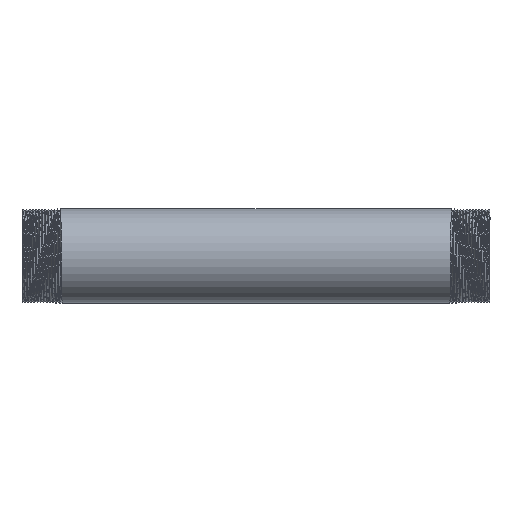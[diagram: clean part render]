
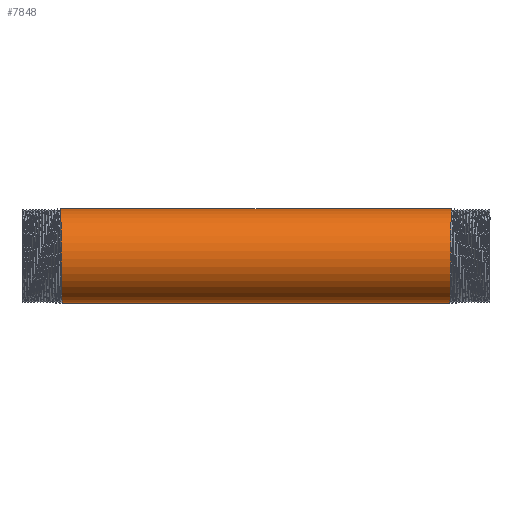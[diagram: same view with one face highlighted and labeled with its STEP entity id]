
A CAD part, front view. The second image highlights one B-rep face of the part: STEP entity #7848.
In plain terms, the highlighted cylindrical face has radius 30.15 mm (diameter 60.3 mm), a partial arc.
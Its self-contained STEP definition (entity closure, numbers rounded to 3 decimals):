
#370 =( BOUNDED_CURVE ( )  B_SPLINE_CURVE ( 2, ( #11616, #7816, #9628, #8723, #1734, #2825, #9563, #2632, #10652, #8525, #12642 ),
 .UNSPECIFIED., .F., .T. ) 
 B_SPLINE_CURVE_WITH_KNOTS ( ( 3, 2, 2, 2, 2, 3 ),
 ( 0., 0.007, 0.013, 0.02, 0.027, 0.033 ),
 .UNSPECIFIED. ) 
 CURVE ( )  GEOMETRIC_REPRESENTATION_ITEM ( )  RATIONAL_B_SPLINE_CURVE ( ( 1., 0.951, 1., 0.951, 1., 0.951, 1., 0.951, 1., 0.951, 1. ) ) 
 REPRESENTATION_ITEM ( '' )  );
#415 = CARTESIAN_POINT ( 'NONE',  ( -149.494, 0., 0. ) ) ;
#798 = CARTESIAN_POINT ( 'NONE',  ( -124.35, -9.796, -30.15 ) ) ;
#1090 = EDGE_CURVE ( 'NONE', #12295, #6161, #4310, .T. ) ;
#1621 = CARTESIAN_POINT ( 'NONE',  ( -124.25, 0., -30.15 ) ) ;
#1734 = CARTESIAN_POINT ( 'NONE',  ( 124.65, -28.674, -9.317 ) ) ;
#1825 = CARTESIAN_POINT ( 'NONE',  ( -124.55, -25.647, -18.634 ) ) ;
#1832 = VECTOR ( 'NONE', #8328, 1000. ) ;
#2253 = ORIENTED_EDGE ( 'NONE', *, *, #10816, .T. ) ;
#2355 = CARTESIAN_POINT ( 'NONE',  ( 125.25, 0., 30.15 ) ) ;
#2632 = CARTESIAN_POINT ( 'NONE',  ( 124.95, -25.647, 18.634 ) ) ;
#2825 = CARTESIAN_POINT ( 'NONE',  ( 124.75, -31.702, 0. ) ) ;
#3176 = DIRECTION ( 'NONE',  ( -1., 0., 0. ) ) ;
#3395 = CARTESIAN_POINT ( 'NONE',  ( -149.494, 0., -30.15 ) ) ;
#3808 = CARTESIAN_POINT ( 'NONE',  ( -124.75, -31.702, 0. ) ) ;
#4234 = LINE ( 'NONE', #3395, #1832 ) ;
#4310 =( BOUNDED_CURVE ( )  B_SPLINE_CURVE ( 2, ( #6699, #798, #4716, #1825, #8688, #3808, #11647, #10680, #8939, #4964, #12085 ),
 .UNSPECIFIED., .F., .T. ) 
 B_SPLINE_CURVE_WITH_KNOTS ( ( 3, 2, 2, 2, 2, 3 ),
 ( 0., 0.007, 0.013, 0.02, 0.027, 0.033 ),
 .UNSPECIFIED. ) 
 CURVE ( )  GEOMETRIC_REPRESENTATION_ITEM ( )  RATIONAL_B_SPLINE_CURVE ( ( 1., 0.951, 1., 0.951, 1., 0.951, 1., 0.951, 1., 0.951, 1. ) ) 
 REPRESENTATION_ITEM ( '' )  );
#4716 = CARTESIAN_POINT ( 'NONE',  ( -124.45, -17.722, -24.392 ) ) ;
#4964 = CARTESIAN_POINT ( 'NONE',  ( -125.15, -9.796, 30.15 ) ) ;
#5094 = ORIENTED_EDGE ( 'NONE', *, *, #9248, .T. ) ;
#5238 = EDGE_LOOP ( 'NONE', ( #10602, #2253, #5094, #8768 ) ) ;
#5354 = VERTEX_POINT ( 'NONE', #8184 ) ;
#5469 = CARTESIAN_POINT ( 'NONE',  ( -125.25, 0., 30.15 ) ) ;
#5813 = LINE ( 'NONE', #9730, #8178 ) ;
#6161 = VERTEX_POINT ( 'NONE', #5469 ) ;
#6699 = CARTESIAN_POINT ( 'NONE',  ( -124.25, 0., -30.15 ) ) ;
#7083 = DIRECTION ( 'NONE',  ( 0., 0., 1. ) ) ;
#7816 = CARTESIAN_POINT ( 'NONE',  ( 124.35, -9.796, -30.15 ) ) ;
#7848 = ADVANCED_FACE ( 'NONE', ( #9919 ), #11968, .T. ) ;
#8178 = VECTOR ( 'NONE', #11720, 1000. ) ;
#8184 = CARTESIAN_POINT ( 'NONE',  ( 124.25, 0., -30.15 ) ) ;
#8328 = DIRECTION ( 'NONE',  ( -1., 0., 0. ) ) ;
#8525 = CARTESIAN_POINT ( 'NONE',  ( 125.15, -9.796, 30.15 ) ) ;
#8688 = CARTESIAN_POINT ( 'NONE',  ( -124.65, -28.674, -9.317 ) ) ;
#8723 = CARTESIAN_POINT ( 'NONE',  ( 124.55, -25.647, -18.634 ) ) ;
#8768 = ORIENTED_EDGE ( 'NONE', *, *, #1090, .F. ) ;
#8939 = CARTESIAN_POINT ( 'NONE',  ( -125.05, -17.722, 24.392 ) ) ;
#9048 = VERTEX_POINT ( 'NONE', #2355 ) ;
#9248 = EDGE_CURVE ( 'NONE', #9048, #6161, #5813, .T. ) ;
#9563 = CARTESIAN_POINT ( 'NONE',  ( 124.85, -28.674, 9.317 ) ) ;
#9628 = CARTESIAN_POINT ( 'NONE',  ( 124.45, -17.722, -24.392 ) ) ;
#9730 = CARTESIAN_POINT ( 'NONE',  ( -149.494, 0., 30.15 ) ) ;
#9879 = EDGE_CURVE ( 'NONE', #5354, #12295, #4234, .T. ) ;
#9919 = FACE_OUTER_BOUND ( 'NONE', #5238, .T. ) ;
#10602 = ORIENTED_EDGE ( 'NONE', *, *, #9879, .F. ) ;
#10652 = CARTESIAN_POINT ( 'NONE',  ( 125.05, -17.722, 24.392 ) ) ;
#10680 = CARTESIAN_POINT ( 'NONE',  ( -124.95, -25.647, 18.634 ) ) ;
#10807 = AXIS2_PLACEMENT_3D ( 'NONE', #415, #3176, #7083 ) ;
#10816 = EDGE_CURVE ( 'NONE', #5354, #9048, #370, .T. ) ;
#11616 = CARTESIAN_POINT ( 'NONE',  ( 124.25, 0., -30.15 ) ) ;
#11647 = CARTESIAN_POINT ( 'NONE',  ( -124.85, -28.674, 9.317 ) ) ;
#11720 = DIRECTION ( 'NONE',  ( -1., 0., 0. ) ) ;
#11968 = CYLINDRICAL_SURFACE ( 'NONE', #10807, 30.15 ) ;
#12085 = CARTESIAN_POINT ( 'NONE',  ( -125.25, 0., 30.15 ) ) ;
#12295 = VERTEX_POINT ( 'NONE', #1621 ) ;
#12642 = CARTESIAN_POINT ( 'NONE',  ( 125.25, 0., 30.15 ) ) ;
